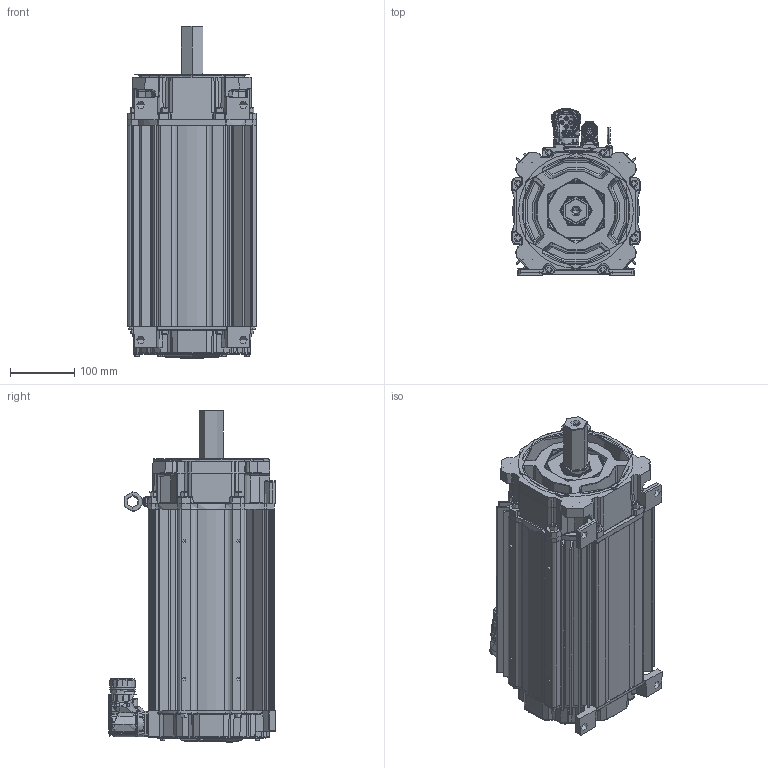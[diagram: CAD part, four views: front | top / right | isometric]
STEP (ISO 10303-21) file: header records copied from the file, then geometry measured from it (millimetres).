
FILE_DESCRIPTION((''),'2;1');
FILE_NAME('10005237080-Y_ASM','2020-01-15T15:16:06',('VThimma'),('Rockwell Automation'),'CREO PARAMETRIC BY PTC INC, 2017380','CREO PARAMETRIC BY PTC INC, 2017380','');
FILE_SCHEMA(('CONFIG_CONTROL_DESIGN','SHAPE_APPEARANCE_LAYERS_GROUPS'));
Products named in the file (26): 10001371549; 10001238886_AF0; 10001298482_AF22; 10001284445_ASM; CH31X150; 10001406660_ASM; 10001370866_KEYLESS; 10001830713_ASM; 10001257630_AF255; 10001300098_AF227; 10001284488_ASM; 10001586886; 10000172464; 0002-5005; 10000014325-2; 10000014331; 10000014332-460; 10000014330-460_ASM; PWR40CONN-BRK; PWR40BASE; 10000806125_ASM; 221404-Q12; 10000569218; 10001290343; 10001609981; 10005237080-Y_ASM
Assembly tree (53 placements, depth 4):
  10005237080-Y_ASM
    10001406660_ASM
      10001371549
      10001284445_ASM
        10001238886_AF0
        10001298482_AF22
      CH31X150  x8
    10001830713_ASM
      10001370866_KEYLESS
    10001284488_ASM
      10001257630_AF255
      10001300098_AF227
    10001586886  x8
    10000172464  x5
    0002-5005  x2
    10000014330-460_ASM
      10000014325-2
      10000014331
      10000014332-460
    10000806125_ASM
      PWR40CONN-BRK
      PWR40BASE
    221404-Q12  x10
    10000569218
    10001290343
    10001609981
Bounding box: 200.45 x 260.05 x 517.29 mm (x, y, z)
Topology: 0 solids, 71 shells, 7475 faces, 19308 edges, 11991 vertices
Faces by surface type: cylinder 2209, plane 1771, bspline 1654, torus 934, cone 689, sphere 175, extrusion 42, revolution 1
Entity records: 385214 total; most frequent: CARTESIAN_POINT 149339, ORIENTED_EDGE 31569, DIRECTION 26491, PRESENTATION_STYLE_ASSIGNMENT 21957, STYLED_ITEM 21957, CURVE_STYLE 15896, EDGE_CURVE 15854, AXIS2_PLACEMENT_3D 10803
